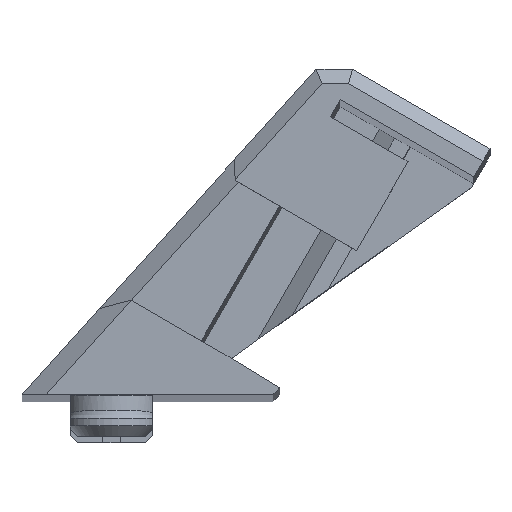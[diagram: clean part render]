
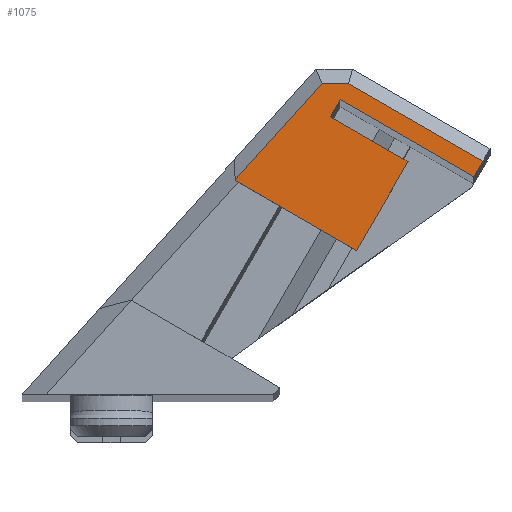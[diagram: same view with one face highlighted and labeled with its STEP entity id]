
A CAD part, top view. The second image highlights one B-rep face of the part: STEP entity #1075.
In plain terms, the highlighted planar face has unit normal (0, 0, 1).
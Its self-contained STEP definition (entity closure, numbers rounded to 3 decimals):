
#17 = ORIENTED_EDGE ( 'NONE', *, *, #728, .T. ) ;
#32 = VERTEX_POINT ( 'NONE', #2265 ) ;
#66 = CARTESIAN_POINT ( 'NONE',  ( 5., 3., 228.3 ) ) ;
#139 = DIRECTION ( 'NONE',  ( -0.866, 0.5, 0. ) ) ;
#243 = ORIENTED_EDGE ( 'NONE', *, *, #2998, .T. ) ;
#297 = CARTESIAN_POINT ( 'NONE',  ( 0., 0., 228.3 ) ) ;
#391 = VERTEX_POINT ( 'NONE', #3966 ) ;
#453 = CARTESIAN_POINT ( 'NONE',  ( 7.49, 0.381, 228.3 ) ) ;
#517 = DIRECTION ( 'NONE',  ( 0.5, 0.866, 0. ) ) ;
#523 = VECTOR ( 'NONE', #3982, 1000. ) ;
#525 = ORIENTED_EDGE ( 'NONE', *, *, #1863, .F. ) ;
#602 = EDGE_CURVE ( 'NONE', #3727, #2992, #1017, .T. ) ;
#634 = CARTESIAN_POINT ( 'NONE',  ( 10.324, 17.882, 228.3 ) ) ;
#728 = EDGE_CURVE ( 'NONE', #818, #2624, #3426, .T. ) ;
#741 = CARTESIAN_POINT ( 'NONE',  ( 12.775, 16.467, 228.3 ) ) ;
#762 = CARTESIAN_POINT ( 'NONE',  ( 10.824, 18.748, 228.3 ) ) ;
#818 = VERTEX_POINT ( 'NONE', #3057 ) ;
#869 = AXIS2_PLACEMENT_3D ( 'NONE', #297, #2818, #1561 ) ;
#879 = EDGE_LOOP ( 'NONE', ( #4026, #1962, #3700, #17, #525, #2652, #2420, #1641, #243, #1782 ) ) ;
#935 = LINE ( 'NONE', #453, #2423 ) ;
#1017 = LINE ( 'NONE', #762, #2680 ) ;
#1075 = ADVANCED_FACE ( 'NONE', ( #3821 ), #3745, .F. ) ;
#1145 = EDGE_CURVE ( 'NONE', #2232, #32, #2419, .T. ) ;
#1276 = DIRECTION ( 'NONE',  ( -0.866, 0.5, 0. ) ) ;
#1407 = EDGE_CURVE ( 'NONE', #2479, #32, #935, .T. ) ;
#1505 = CARTESIAN_POINT ( 'NONE',  ( 6.781, -3.915, 228.3 ) ) ;
#1561 = DIRECTION ( 'NONE',  ( -1., 0., 0. ) ) ;
#1579 = VERTEX_POINT ( 'NONE', #741 ) ;
#1617 = VECTOR ( 'NONE', #1992, 1000. ) ;
#1641 = ORIENTED_EDGE ( 'NONE', *, *, #602, .T. ) ;
#1649 = CARTESIAN_POINT ( 'NONE',  ( 12.217, 15.5, 228.3 ) ) ;
#1657 = EDGE_CURVE ( 'NONE', #2479, #3019, #2464, .T. ) ;
#1691 = CARTESIAN_POINT ( 'NONE',  ( 20.723, 13.033, 228.3 ) ) ;
#1782 = ORIENTED_EDGE ( 'NONE', *, *, #1145, .T. ) ;
#1824 = CARTESIAN_POINT ( 'NONE',  ( 9.766, 16.915, 228.3 ) ) ;
#1863 = EDGE_CURVE ( 'NONE', #1579, #2624, #1988, .T. ) ;
#1962 = ORIENTED_EDGE ( 'NONE', *, *, #1657, .T. ) ;
#1979 = VECTOR ( 'NONE', #3932, 1000. ) ;
#1988 = LINE ( 'NONE', #66, #2434 ) ;
#1992 = DIRECTION ( 'NONE',  ( 0.866, -0.5, 0. ) ) ;
#2073 = VECTOR ( 'NONE', #3376, 1000. ) ;
#2111 = CARTESIAN_POINT ( 'NONE',  ( 11.758, 17.36, 228.3 ) ) ;
#2190 = DIRECTION ( 'NONE',  ( -0.67, -0.742, 0. ) ) ;
#2232 = VERTEX_POINT ( 'NONE', #2111 ) ;
#2265 = CARTESIAN_POINT ( 'NONE',  ( 6.9, 11.981, 228.3 ) ) ;
#2419 = LINE ( 'NONE', #3464, #3866 ) ;
#2420 = ORIENTED_EDGE ( 'NONE', *, *, #2778, .T. ) ;
#2423 = VECTOR ( 'NONE', #3919, 1000. ) ;
#2434 = VECTOR ( 'NONE', #2555, 1000. ) ;
#2464 = LINE ( 'NONE', #3224, #1617 ) ;
#2479 = VERTEX_POINT ( 'NONE', #2822 ) ;
#2509 = EDGE_CURVE ( 'NONE', #391, #1579, #4039, .T. ) ;
#2555 = DIRECTION ( 'NONE',  ( -0.5, -0.866, 0. ) ) ;
#2613 = VECTOR ( 'NONE', #517, 1000. ) ;
#2624 = VERTEX_POINT ( 'NONE', #1649 ) ;
#2652 = ORIENTED_EDGE ( 'NONE', *, *, #2509, .F. ) ;
#2680 = VECTOR ( 'NONE', #139, 1000. ) ;
#2711 = CARTESIAN_POINT ( 'NONE',  ( 13.68, 8.034, 228.3 ) ) ;
#2756 = LINE ( 'NONE', #1505, #523 ) ;
#2778 = EDGE_CURVE ( 'NONE', #391, #3727, #3781, .T. ) ;
#2818 = DIRECTION ( 'NONE',  ( 0., 0., -1. ) ) ;
#2822 = CARTESIAN_POINT ( 'NONE',  ( 6.902, 11.948, 228.3 ) ) ;
#2909 = LINE ( 'NONE', #3596, #1979 ) ;
#2992 = VERTEX_POINT ( 'NONE', #3945 ) ;
#2998 = EDGE_CURVE ( 'NONE', #2992, #2232, #2909, .T. ) ;
#3019 = VERTEX_POINT ( 'NONE', #2711 ) ;
#3053 = VECTOR ( 'NONE', #1276, 1000. ) ;
#3057 = CARTESIAN_POINT ( 'NONE',  ( 16.547, 13., 228.3 ) ) ;
#3224 = CARTESIAN_POINT ( 'NONE',  ( 6.899, 11.949, 228.3 ) ) ;
#3282 = CARTESIAN_POINT ( 'NONE',  ( 20.623, 12.86, 228.3 ) ) ;
#3376 = DIRECTION ( 'NONE',  ( -0.866, 0.5, 0. ) ) ;
#3404 = EDGE_CURVE ( 'NONE', #818, #3019, #2756, .T. ) ;
#3426 = LINE ( 'NONE', #1824, #2073 ) ;
#3464 = CARTESIAN_POINT ( 'NONE',  ( -2.16, 1.951, 228.3 ) ) ;
#3596 = CARTESIAN_POINT ( 'NONE',  ( 0., 17.36, 228.3 ) ) ;
#3700 = ORIENTED_EDGE ( 'NONE', *, *, #3404, .F. ) ;
#3727 = VERTEX_POINT ( 'NONE', #1691 ) ;
#3745 = PLANE ( 'NONE',  #869 ) ;
#3781 = LINE ( 'NONE', #3282, #2613 ) ;
#3821 = FACE_OUTER_BOUND ( 'NONE', #879, .T. ) ;
#3866 = VECTOR ( 'NONE', #2190, 1000. ) ;
#3919 = DIRECTION ( 'NONE',  ( -0.051, 0.999, 0. ) ) ;
#3932 = DIRECTION ( 'NONE',  ( -1., 0., 0. ) ) ;
#3945 = CARTESIAN_POINT ( 'NONE',  ( 13.229, 17.36, 228.3 ) ) ;
#3966 = CARTESIAN_POINT ( 'NONE',  ( 20.223, 12.167, 228.3 ) ) ;
#3982 = DIRECTION ( 'NONE',  ( -0.5, -0.866, 0. ) ) ;
#4026 = ORIENTED_EDGE ( 'NONE', *, *, #1407, .F. ) ;
#4039 = LINE ( 'NONE', #634, #3053 ) ;
